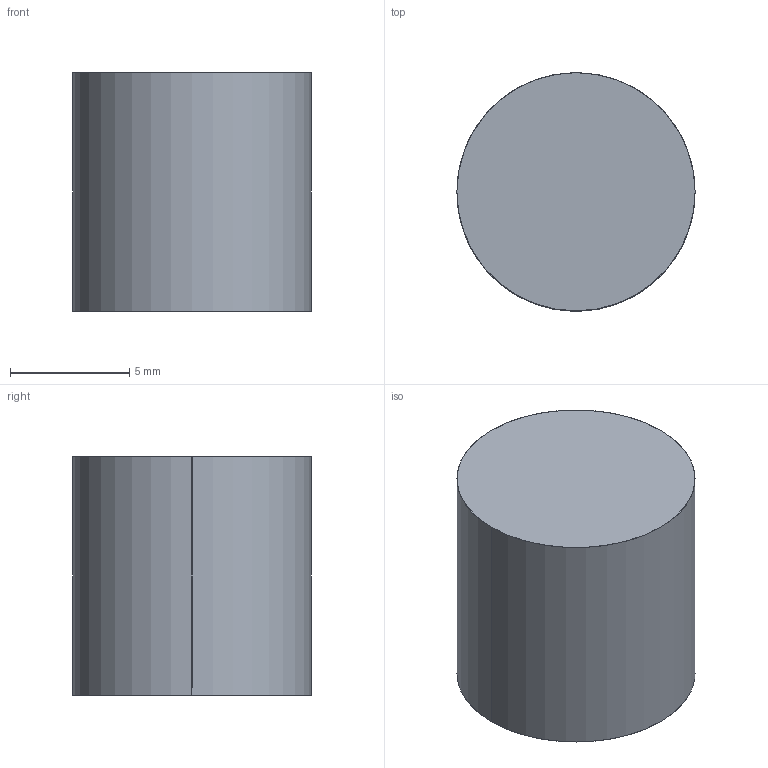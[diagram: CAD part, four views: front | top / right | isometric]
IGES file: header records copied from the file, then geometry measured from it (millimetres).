
Start section: SolidWorks IGES file using analytic representation for surfaces
Global section: file name: X:\11_SW2020-Inv2020\00_全2021-11新製品まで\d\DRP-100\drp-100.IGS; native system: SolidWorks 2020; preprocessor: SolidWorks 2020; author: ImaoCorp; date: 211021.165237; units: millimetre
Bounding box: 10 x 10 x 10 mm (x, y, z)
Surface area: 549.8 mm2 (no closed solid volume)
Topology: 0 solids, 0 shells, 7 faces, 144 edges, 144 vertices
Faces by surface type: revolution 4, bspline 3
